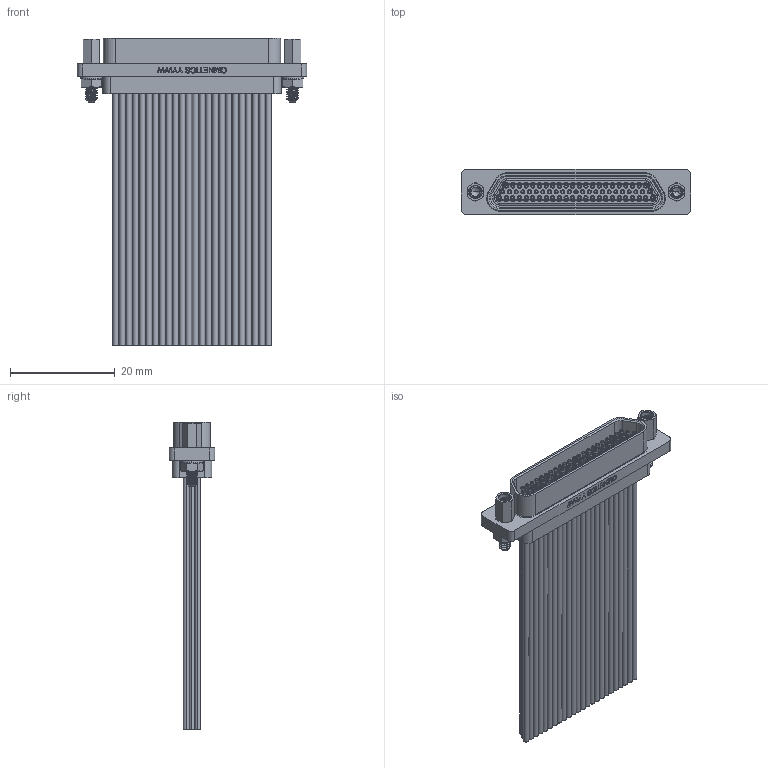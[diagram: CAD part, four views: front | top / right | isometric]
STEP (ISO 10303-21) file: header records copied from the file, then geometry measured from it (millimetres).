
FILE_DESCRIPTION (( 'STEP AP214' ), '1' );
FILE_NAME ('A99101-069 REV A.STEP', '2020-10-27T22:50:14', ( '' ), ( '' ), 'SwSTEP 2.0', 'SolidWorks 2019', '' );
FILE_SCHEMA (( 'AUTOMOTIVE_DESIGN' ));
Length unit declared in the file: inch
Products named in the file (1): A99101-069 Rev A
Bounding box: 43.81 x 8.72 x 58.88 mm (x, y, z)
Volume: 5333.6 mm3; surface area: 15568.5 mm2
Topology: 1 solids, 2 shells, 1971 faces, 4411 edges, 2873 vertices
Faces by surface type: cylinder 1101, plane 626, torus 111, bspline 70, cone 63
Entity records: 65297 total; most frequent: CARTESIAN_POINT 20263, DIRECTION 10067, ORIENTED_EDGE 8802, EDGE_CURVE 4401, AXIS2_PLACEMENT_3D 4199, VERTEX_POINT 2873, EDGE_LOOP 2420, CIRCLE 2297
